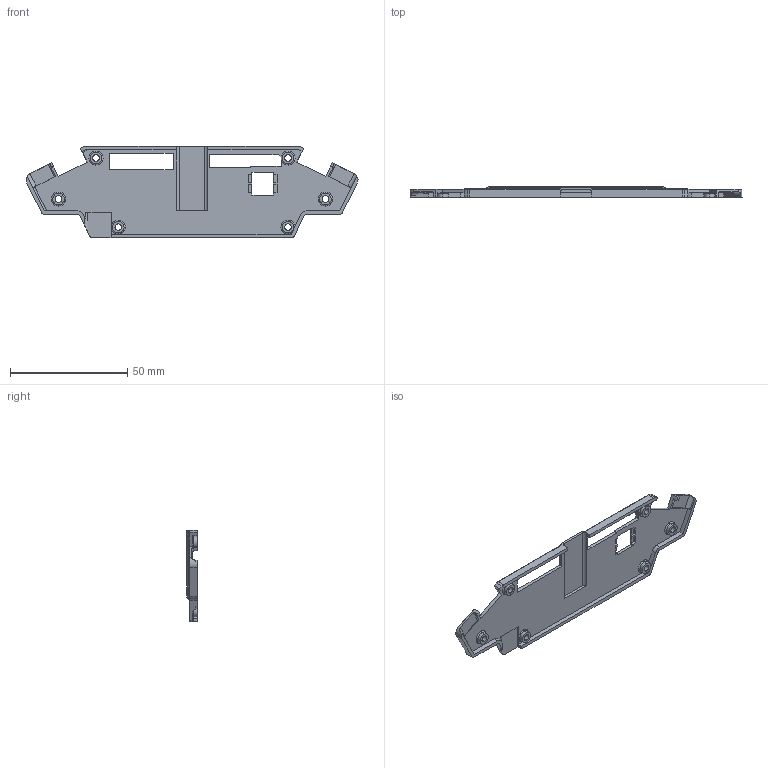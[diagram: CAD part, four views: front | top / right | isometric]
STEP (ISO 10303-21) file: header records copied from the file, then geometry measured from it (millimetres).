
FILE_DESCRIPTION (( 'STEP AP203' ), '1' );
FILE_NAME ('BR01_POWER_HUB_COVER_TOP_Rev1C.STEP');
FILE_SCHEMA (( 'CONFIG_CONTROL_DESIGN' ));
Length unit declared in the file: millimetre
Products named in the file (1): BR01_POWER_HUB_COVER_TOP_Rev1C
Bounding box: 141.76 x 4.5 x 39 mm (x, y, z)
Volume: 6805.1 mm3; surface area: 10279.1 mm2
Topology: 1 solids, 1 shells, 257 faces, 675 edges, 420 vertices
Faces by surface type: plane 122, cylinder 73, torus 32, cone 26, bspline 4
Entity records: 8172 total; most frequent: CARTESIAN_POINT 1675, DIRECTION 1359, ORIENTED_EDGE 1346, EDGE_CURVE 673, AXIS2_PLACEMENT_3D 470, VERTEX_POINT 420, LINE 419, VECTOR 419
